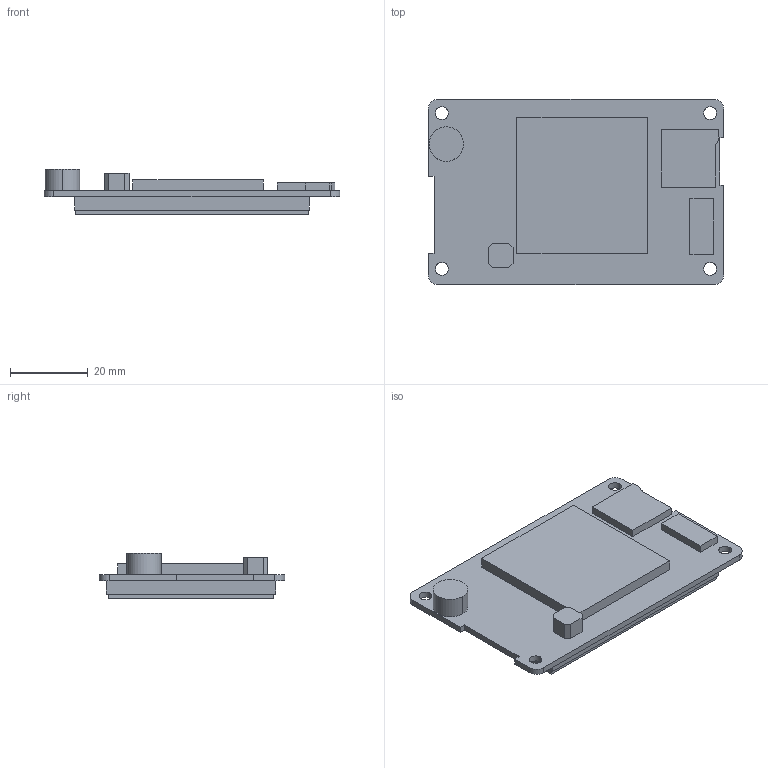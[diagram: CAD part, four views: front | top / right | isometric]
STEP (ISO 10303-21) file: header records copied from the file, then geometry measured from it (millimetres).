
FILE_DESCRIPTION((''),'2;1');
FILE_NAME('DMG32240C024-03WN-WTR-WTC','2022-05-23T',('Administrator'),(''),'PRO/ENGINEER BY PARAMETRIC TECHNOLOGY CORPORATION, 2008380','PRO/ENGINEER BY PARAMETRIC TECHNOLOGY CORPORATION, 2008380','');
FILE_SCHEMA(('CONFIG_CONTROL_DESIGN'));
Length unit declared in the file: millimetre
Products named in the file (1): DMG32240C024-03WN-WTR-WTC
Bounding box: 76.2 x 47.75 x 11.7 mm (x, y, z)
Volume: 21395.4 mm3; surface area: 13245.8 mm2
Topology: 1 solids, 2 shells, 71 faces, 8213 edges, 13026 vertices
Faces by surface type: plane 57, cylinder 14
Entity records: 45532 total; most frequent: DIRECTION 11554, CARTESIAN_POINT 8405, TRIMMED_CURVE 8033, VECTOR 5016, LINE 5016, AXIS2_PLACEMENT_3D 3269, CIRCLE 3197, ORIENTED_EDGE 360
